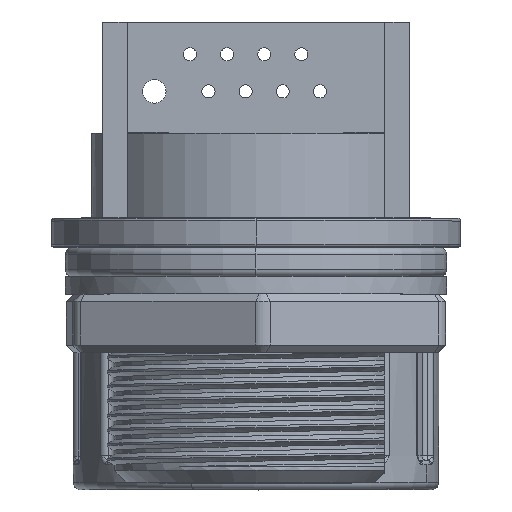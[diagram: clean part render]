
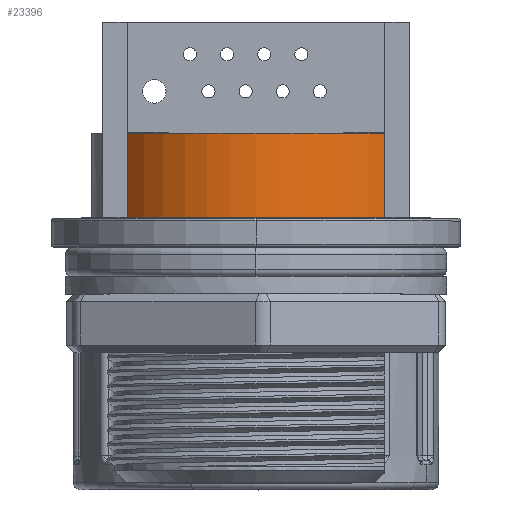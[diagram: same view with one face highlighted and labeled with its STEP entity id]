
A CAD part, top view. The second image highlights one B-rep face of the part: STEP entity #23396.
In plain terms, the highlighted cylindrical face has radius 11.25 mm (diameter 22.5 mm), a partial arc.
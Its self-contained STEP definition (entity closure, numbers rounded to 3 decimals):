
#3486=CARTESIAN_POINT('',(-0.003,-207.6,
0.));
#3487=DIRECTION('',(0.,1.,0.));
#3488=DIRECTION('',(-0.782,0.,0.623));
#3489=AXIS2_PLACEMENT_3D('',#3486,#3487,#3488);
#3491=CARTESIAN_POINT('',(-0.003,-207.6,
0.));
#3492=DIRECTION('',(0.,1.,0.));
#3493=DIRECTION('',(0.,0.,1.));
#3494=AXIS2_PLACEMENT_3D('',#3491,#3492,#3493);
#4000=CARTESIAN_POINT('',(-0.003,-201.8,
0.));
#4001=DIRECTION('',(0.,-1.,0.));
#4002=DIRECTION('',(0.782,0.,0.623));
#4003=AXIS2_PLACEMENT_3D('',#4000,#4001,#4002);
#4005=CARTESIAN_POINT('',(-0.003,-201.8,
0.));
#4006=DIRECTION('',(0.,-1.,0.));
#4007=DIRECTION('',(0.,0.,1.));
#4008=AXIS2_PLACEMENT_3D('',#4005,#4006,#4007);
#4256=DIRECTION('',(0.,-1.,0.));
#4257=VECTOR('',#4256,5.8);
#4258=CARTESIAN_POINT('',(8.797,-201.8,7.009));
#4259=LINE('',#4258,#4257);
#4260=DIRECTION('',(0.,1.,0.));
#4261=VECTOR('',#4260,5.8);
#4262=CARTESIAN_POINT('',(-8.803,-207.6,
7.009));
#4263=LINE('',#4262,#4261);
#13902=CARTESIAN_POINT('',(-8.803,-207.6,
7.009));
#13903=VERTEX_POINT('',#13902);
#13904=CARTESIAN_POINT('',(-0.003,-207.6,11.25));
#13905=VERTEX_POINT('',#13904);
#13906=CARTESIAN_POINT('',(8.797,-207.6,
7.009));
#13907=VERTEX_POINT('',#13906);
#16316=CARTESIAN_POINT('',(-8.803,-201.8,
7.009));
#16318=VERTEX_POINT('',#16316);
#16323=CARTESIAN_POINT('',(8.797,-201.8,
7.009));
#16324=VERTEX_POINT('',#16323);
#16325=CARTESIAN_POINT('',(-0.003,-201.8,11.25));
#16326=VERTEX_POINT('',#16325);
#23383=CARTESIAN_POINT('',(-0.003,-207.6,
0.));
#23384=DIRECTION('',(0.,-1.,0.));
#23385=DIRECTION('',(0.,0.,-1.));
#23386=AXIS2_PLACEMENT_3D('',#23383,#23384,#23385);
#23387=CYLINDRICAL_SURFACE('',#23386,11.25);
#23388=ORIENTED_EDGE('',*,*,#23061,.F.);
#23389=ORIENTED_EDGE('',*,*,#22482,.T.);
#23390=ORIENTED_EDGE('',*,*,#22366,.F.);
#23391=ORIENTED_EDGE('',*,*,#22364,.F.);
#23392=ORIENTED_EDGE('',*,*,#23082,.T.);
#23393=ORIENTED_EDGE('',*,*,#23063,.F.);
#23394=EDGE_LOOP('',(#23388,#23389,#23390,#23391,#23392,#23393));
#23395=FACE_OUTER_BOUND('',#23394,.F.);
#23396=ADVANCED_FACE('',(#23395),#23387,.T.);
#3490=CIRCLE('',#3489,11.25);
#3495=CIRCLE('',#3494,11.25);
#4004=CIRCLE('',#4003,11.25);
#4009=CIRCLE('',#4008,11.25);
#22364=EDGE_CURVE('',#13903,#13905,#3490,.T.);
#22366=EDGE_CURVE('',#13905,#13907,#3495,.T.);
#22482=EDGE_CURVE('',#16324,#13907,#4259,.T.);
#23061=EDGE_CURVE('',#16324,#16326,#4004,.T.);
#23063=EDGE_CURVE('',#16326,#16318,#4009,.T.);
#23082=EDGE_CURVE('',#13903,#16318,#4263,.T.);
